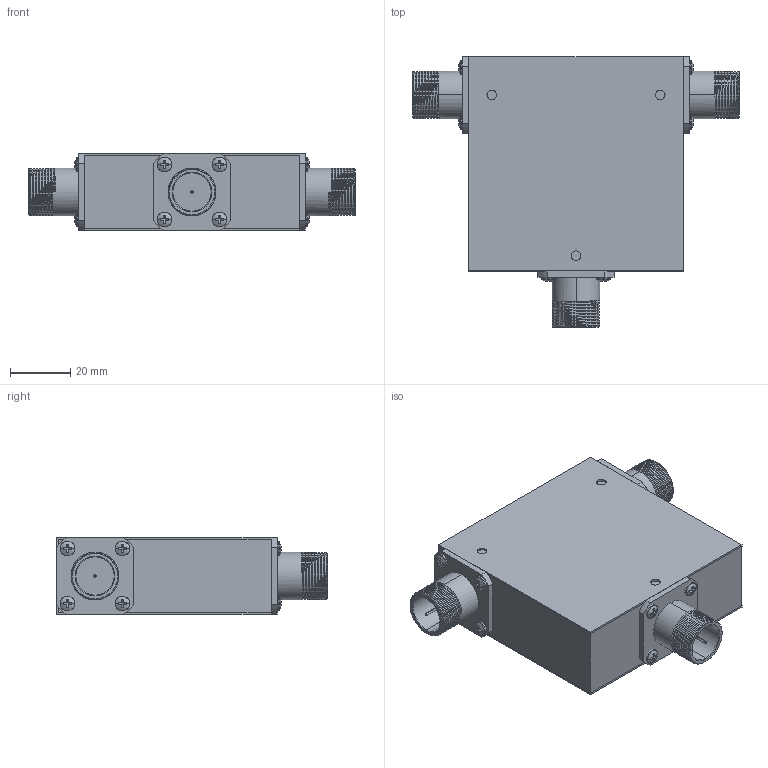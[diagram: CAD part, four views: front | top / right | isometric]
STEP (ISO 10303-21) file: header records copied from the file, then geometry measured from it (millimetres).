
FILE_DESCRIPTION (( 'STEP AP214' ), '1' );
FILE_NAME ('Package 20 Circ FFF Type-N.step', '2021-12-01T20:59:36', ( '' ), ( '' ), 'SwSTEP 2.0', 'SolidWorks 2016', '' );
FILE_SCHEMA (( 'AUTOMOTIVE_DESIGN' ));
Length unit declared in the file: inch
Products named in the file (5): pan cross head_ai_CR-PHMS 0.099-56x0.125x0.125-N; Package Size 20; Package 20; Delta Type N Female, 1.0in flange; Package 20 Circ FFF Type-N
Assembly tree (17 placements, depth 2):
  Package 20 Circ FFF Type-N
    Package Size 20
    Package 20
    pan cross head_ai_CR-PHMS 0.099-56x0.125x0.125-N  x12
    Delta Type N Female, 1.0in flange  x3
Bounding box: 108.46 x 89.79 x 25.4 mm (x, y, z)
Volume: 136042.2 mm3; surface area: 51397.1 mm2
Topology: 17 solids, 17 shells, 460 faces, 1083 edges, 678 vertices
Faces by surface type: plane 229, cylinder 162, torus 30, sphere 24, cone 9, bspline 6
Entity records: 4349 total; most frequent: CARTESIAN_POINT 1563, DIRECTION 555, ORIENTED_EDGE 518, EDGE_CURVE 259, AXIS2_PLACEMENT_3D 218, VERTEX_POINT 168, EDGE_LOOP 127, VECTOR 119
